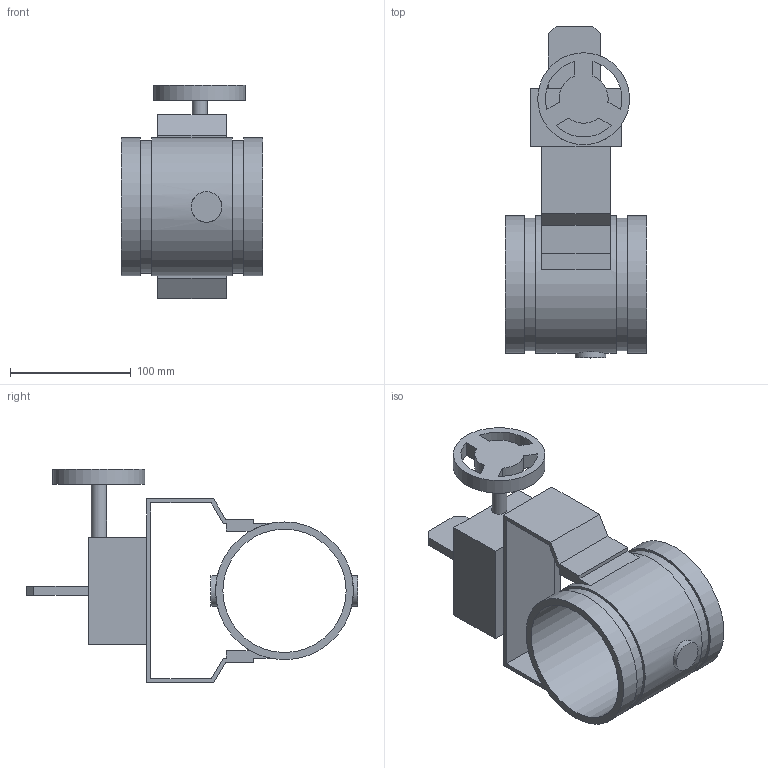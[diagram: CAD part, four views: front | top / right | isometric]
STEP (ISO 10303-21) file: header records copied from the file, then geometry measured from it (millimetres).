
FILE_DESCRIPTION(/* description */ ('VIC FIRELOCK BUTTERFLY VALVE SERIES 707 W/ WEATHERPROOF ACTUATOR FOR 300 PSI','CAx-IF Rec.Pracs.---Representation and Presentation of Product Manufacturing Information (PMI)---4.0---2014-10-13'),/* implementation_level */ '2;1');
FILE_NAME(/* name */ 'C:\Users\Vjadhav\AppData\Roaming\Autodesk\ApplicationPlugins\Back Up\Victaulic_FP-FireLock_Valve Butterfly_Series 707 (OGS)-Closed\Victaulic_FP-FireLock_Valve Butterfly_Series 707 (OGS)-Closed_4 (100).stp',/* time_stamp */ '2020-07-22T11:31:29+05:00',/* author */ ('kkamble'),/* organization */ ('Victaulic'),/* preprocessor_version */ 'ST-DEVELOPER v17.2',/* originating_system */ 'Autodesk Inventor 2019',/* authorisation */ '');
FILE_SCHEMA (('AP242_MANAGED_MODEL_BASED_3D_ENGINEERING_MIM_LF { 1 0 10303 442 1 1 4 }'));
Length unit declared in the file: inch
Products named in the file (1): 707-04.0
Bounding box: 117.6 x 275.34 x 177.29 mm (x, y, z)
Volume: 707618.4 mm3; surface area: 169377.4 mm2
Topology: 1 solids, 1 shells, 71 faces, 194 edges, 133 vertices
Faces by surface type: plane 55, cylinder 16
Full cylindrical faces by diameter (mm): 12.624 x1, 25.4 x2, 76.2 x1, 102.26 x1, 110.084 x2, 114.3 x3
Entity records: 2591 total; most frequent: CARTESIAN_POINT 485, DIRECTION 407, ORIENTED_EDGE 388, EDGE_CURVE 194, LINE 141, VECTOR 141, VERTEX_POINT 133, AXIS2_PLACEMENT_3D 133
